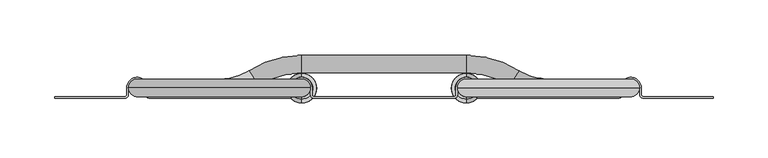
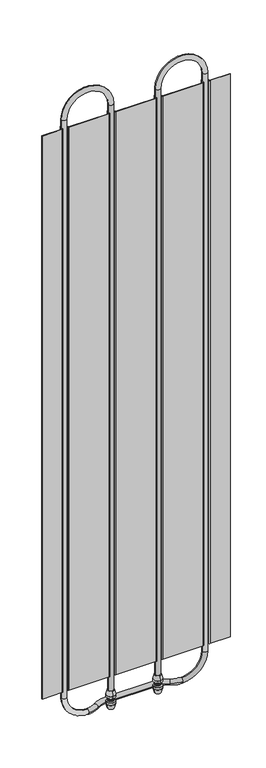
"""IFC4 building model written with IfcOpenShell, lengths in millimetres: plate geometry, 400_56_KOMF_NRG panel : Komfort NRG panel 600."""

from ifc_helpers import new_model, si_unit, point, frame, frame_2d, origin, place, context, project, spatial, polyline, circle_curve, ellipse_curve, trimmed, segment, composite_curve, outline, extrude, source, transform, mapped, element, save
from ifc_brep_helpers import plane_surface, cylinder_surface, revolved_surface, advanced_brep


def plate_3755ddb1(model_context):
    return source(origin(), model_context, "Body", "SolidModel", [
        advanced_brep(
        [(75.0, -2.0, 356.0), (75.0, 0.0, 356.0), (75.0, 16.0, 356.0), (75.0, 18.0, 356.0), (75.0, -5.5, 341.0), (75.0, 21.5, 341.0), (75.0, 0.0, 341.0), (75.0, 16.0, 341.0)],
        [
            (0, 1),
            (1, 2, circle_curve(frame((75.0, 8.0, 356.0), z_axis=(0.0, 0.0, -1.0), x_axis=(0.0, 1.0, 0.0)), 8.0)),
            (2, 3),
            (3, 0, circle_curve(frame((75.0, 8.0, 356.0), z_axis=(0.0, 0.0, 1.0), x_axis=(0.0, 1.0, 0.0)), 10.0)),
            (2, 1, circle_curve(frame((75.0, 8.0, 356.0), z_axis=(0.0, 0.0, -1.0), x_axis=(0.0, 1.0, 0.0)), 8.0)),
            (0, 3, circle_curve(frame((75.0, 8.0, 356.0), z_axis=(0.0, 0.0, 1.0), x_axis=(0.0, 1.0, 0.0)), 10.0)),
            (4, 0),
            (3, 5),
            (5, 4, circle_curve(frame((75.0, 8.0, 341.0), z_axis=(0.0, 0.0, 1.0), x_axis=(0.0, 1.0, 0.0)), 13.5)),
            (4, 5, circle_curve(frame((75.0, 8.0, 341.0), z_axis=(0.0, 0.0, 1.0), x_axis=(0.0, 1.0, 0.0)), 13.5)),
            (1, 6),
            (6, 7, circle_curve(frame((75.0, 8.0, 341.0), z_axis=(0.0, 0.0, -1.0), x_axis=(0.0, 1.0, 0.0)), 8.0)),
            (7, 2),
            (7, 6, circle_curve(frame((75.0, 8.0, 341.0), z_axis=(0.0, 0.0, -1.0), x_axis=(0.0, 1.0, 0.0)), 8.0)),
            (6, 4),
            (5, 7),
        ],
        [
            plane_surface(frame((75.0, 8.0, 356.0), z_axis=(0.0, 0.0, 1.0), x_axis=(0.0, 1.0, 0.0))),
            revolved_surface(polyline([(75.0, 18.0, 356.0), (75.0, 21.5, 341.0)]), (75.0, 8.0, 338.0), (0.0, 0.0, -1.0)),
            revolved_surface(polyline([(75.0, 16.0, 341.0), (75.0, 16.0, 356.0)]), (75.0, 8.0, 338.0), (0.0, 0.0, -1.0)),
            plane_surface(frame((75.0, 8.0, 341.0), z_axis=(0.0, 0.0, -1.0), x_axis=(0.0, 1.0, 0.0))),
        ],
        [
            (0, [[1, 2, 3, 4]]),
            (0, [[-3, 5, -1, 6]]),
            (1, [[7, -4, 8, 9]]),
            (1, [[-8, -6, -7, 10]]),
            (2, [[11, 12, 13, -2]]),
            (2, [[-13, 14, -11, -5]]),
            (3, [[15, -9, 16, -12]]),
            (3, [[-16, -10, -15, -14]]),
        ],
    ),
        advanced_brep(
        [(75.0, -5.5, 333.0), (75.0, -5.5, 341.0), (75.0, 21.5, 341.0), (75.0, 21.5, 333.0), (75.0, -2.0, 330.0), (75.0, 18.0, 330.0), (75.0, -2.0, 327.0), (75.0, 18.0, 327.0), (75.0, 8.0, 327.0), (75.0, 0.0, 341.0), (75.0, 0.0, 338.0), (75.0, 16.0, 338.0), (75.0, 16.0, 341.0), (75.0, 8.0, 338.0)],
        [
            (0, 1),
            (1, 2, circle_curve(frame((75.0, 8.0, 341.0), z_axis=(0.0, 0.0, -1.0), x_axis=(0.0, 1.0, 0.0)), 13.5)),
            (2, 3),
            (3, 0, circle_curve(frame((75.0, 8.0, 333.0), z_axis=(0.0, 0.0, 1.0), x_axis=(0.0, 1.0, 0.0)), 13.5)),
            (2, 1, circle_curve(frame((75.0, 8.0, 341.0), z_axis=(0.0, 0.0, -1.0), x_axis=(0.0, 1.0, 0.0)), 13.5)),
            (0, 3, circle_curve(frame((75.0, 8.0, 333.0), z_axis=(0.0, 0.0, 1.0), x_axis=(0.0, 1.0, 0.0)), 13.5)),
            (4, 0),
            (3, 5),
            (5, 4, circle_curve(frame((75.0, 8.0, 330.0), z_axis=(0.0, 0.0, 1.0), x_axis=(0.0, 1.0, 0.0)), 10.0)),
            (4, 5, circle_curve(frame((75.0, 8.0, 330.0), z_axis=(0.0, 0.0, 1.0), x_axis=(0.0, 1.0, 0.0)), 10.0)),
            (6, 4),
            (5, 7),
            (7, 6, circle_curve(frame((75.0, 8.0, 327.0), z_axis=(0.0, 0.0, 1.0), x_axis=(0.0, 1.0, 0.0)), 10.0)),
            (6, 7, circle_curve(frame((75.0, 8.0, 327.0), z_axis=(0.0, 0.0, 1.0), x_axis=(0.0, 1.0, 0.0)), 10.0)),
            (8, 6),
            (7, 8),
            (9, 10),
            (10, 11, circle_curve(frame((75.0, 8.0, 338.0), z_axis=(0.0, 0.0, -1.0), x_axis=(0.0, 1.0, 0.0)), 8.0)),
            (11, 12),
            (12, 9, circle_curve(frame((75.0, 8.0, 341.0), z_axis=(0.0, 0.0, 1.0), x_axis=(0.0, 1.0, 0.0)), 8.0)),
            (11, 10, circle_curve(frame((75.0, 8.0, 338.0), z_axis=(0.0, 0.0, -1.0), x_axis=(0.0, 1.0, 0.0)), 8.0)),
            (9, 12, circle_curve(frame((75.0, 8.0, 341.0), z_axis=(0.0, 0.0, 1.0), x_axis=(0.0, 1.0, 0.0)), 8.0)),
            (10, 13),
            (13, 11),
            (1, 9),
            (12, 2),
        ],
        [
            cylinder_surface(frame((75.0, 8.0, 338.0), z_axis=(0.0, 0.0, -1.0), x_axis=(0.0, 1.0, 0.0)), 13.5),
            revolved_surface(polyline([(75.0, 21.5, 333.0), (75.0, 18.0, 330.0)]), (75.0, 8.0, 338.0), (0.0, 0.0, -1.0)),
            cylinder_surface(frame((75.0, 8.0, 338.0), z_axis=(0.0, 0.0, -1.0), x_axis=(0.0, 1.0, 0.0)), 10.0),
            plane_surface(frame((75.0, 8.0, 327.0), z_axis=(0.0, 0.0, -1.0), x_axis=(0.0, 1.0, 0.0))),
            revolved_surface(polyline([(75.0, 16.0, 338.0), (75.0, 16.0, 341.0)]), (75.0, 8.0, 338.0), (0.0, 0.0, -1.0)),
            plane_surface(frame((75.0, 8.0, 338.0), z_axis=(0.0, 0.0, 1.0), x_axis=(0.0, 1.0, 0.0))),
            plane_surface(frame((75.0, 8.0, 341.0), z_axis=(0.0, 0.0, 1.0), x_axis=(0.0, 1.0, 0.0))),
        ],
        [
            (0, [[1, 2, 3, 4]]),
            (0, [[-3, 5, -1, 6]]),
            (1, [[7, -4, 8, 9]]),
            (1, [[-8, -6, -7, 10]]),
            (2, [[11, -9, 12, 13]]),
            (2, [[-12, -10, -11, 14]]),
            (3, [[15, -13, 16]]),
            (3, [[-16, -14, -15]]),
            (4, [[17, 18, 19, 20]]),
            (4, [[-19, 21, -17, 22]]),
            (5, [[23, 24, -18]]),
            (5, [[-24, -23, -21]]),
            (6, [[25, -20, 26, -2]]),
            (6, [[-26, -22, -25, -5]]),
        ],
    ),
        advanced_brep(
        [(65.0, 8.0, 295.6), (67.0, 8.0, 295.6), (83.0, 8.0, 295.6), (85.0, 8.0, 295.6), (61.5, 8.0, 310.6), (88.5, 8.0, 310.6), (67.0, 8.0, 310.6), (83.0, 8.0, 310.6)],
        [
            (0, 1),
            (1, 2, circle_curve(frame((75.0, 8.0, 295.6), z_axis=(0.0, 0.0, 1.0), x_axis=(1.0, 0.0, 0.0)), 8.0)),
            (2, 3),
            (3, 0, circle_curve(frame((75.0, 8.0, 295.6), z_axis=(0.0, 0.0, -1.0), x_axis=(1.0, 0.0, 0.0)), 10.0)),
            (2, 1, circle_curve(frame((75.0, 8.0, 295.6), z_axis=(0.0, 0.0, 1.0), x_axis=(1.0, 0.0, 0.0)), 8.0)),
            (0, 3, circle_curve(frame((75.0, 8.0, 295.6), z_axis=(0.0, 0.0, -1.0), x_axis=(1.0, 0.0, 0.0)), 10.0)),
            (4, 0),
            (3, 5),
            (5, 4, circle_curve(frame((75.0, 8.0, 310.6), z_axis=(0.0, 0.0, -1.0), x_axis=(1.0, 0.0, 0.0)), 13.5)),
            (4, 5, circle_curve(frame((75.0, 8.0, 310.6), z_axis=(0.0, 0.0, -1.0), x_axis=(1.0, 0.0, 0.0)), 13.5)),
            (1, 6),
            (6, 7, circle_curve(frame((75.0, 8.0, 310.6), z_axis=(0.0, 0.0, 1.0), x_axis=(1.0, 0.0, 0.0)), 8.0)),
            (7, 2),
            (7, 6, circle_curve(frame((75.0, 8.0, 310.6), z_axis=(0.0, 0.0, 1.0), x_axis=(1.0, 0.0, 0.0)), 8.0)),
            (6, 4),
            (5, 7),
        ],
        [
            plane_surface(frame((75.0, 8.0, 295.6), z_axis=(0.0, 0.0, -1.0), x_axis=(1.0, 0.0, 0.0))),
            revolved_surface(polyline([(85.0, 8.0, 295.6), (88.5, 8.0, 310.6)]), (75.0, 8.0, 313.6), (0.0, 0.0, 1.0)),
            revolved_surface(polyline([(83.0, 8.0, 310.6), (83.0, 8.0, 295.6)]), (75.0, 8.0, 313.6), (0.0, 0.0, 1.0)),
            plane_surface(frame((75.0, 8.0, 310.6), z_axis=(0.0, 0.0, 1.0), x_axis=(1.0, 0.0, 0.0))),
        ],
        [
            (0, [[1, 2, 3, 4]]),
            (0, [[-3, 5, -1, 6]]),
            (1, [[7, -4, 8, 9]]),
            (1, [[-8, -6, -7, 10]]),
            (2, [[11, 12, 13, -2]]),
            (2, [[-13, 14, -11, -5]]),
            (3, [[15, -9, 16, -12]]),
            (3, [[-16, -10, -15, -14]]),
        ],
    ),
        advanced_brep(
        [(61.5, 8.0, 318.6), (61.5, 8.0, 310.6), (88.5, 8.0, 310.6), (88.5, 8.0, 318.6), (65.0, 8.0, 321.6), (85.0, 8.0, 321.6), (65.0, 8.0, 324.6), (85.0, 8.0, 324.6), (75.0, 8.0, 324.6), (67.0, 8.0, 310.6), (67.0, 8.0, 313.6), (83.0, 8.0, 313.6), (83.0, 8.0, 310.6), (75.0, 8.0, 313.6)],
        [
            (0, 1),
            (1, 2, circle_curve(frame((75.0, 8.0, 310.6), z_axis=(0.0, 0.0, 1.0), x_axis=(1.0, 0.0, 0.0)), 13.5)),
            (2, 3),
            (3, 0, circle_curve(frame((75.0, 8.0, 318.6), z_axis=(0.0, 0.0, -1.0), x_axis=(1.0, 0.0, 0.0)), 13.5)),
            (2, 1, circle_curve(frame((75.0, 8.0, 310.6), z_axis=(0.0, 0.0, 1.0), x_axis=(1.0, 0.0, 0.0)), 13.5)),
            (0, 3, circle_curve(frame((75.0, 8.0, 318.6), z_axis=(0.0, 0.0, -1.0), x_axis=(1.0, 0.0, 0.0)), 13.5)),
            (4, 0),
            (3, 5),
            (5, 4, circle_curve(frame((75.0, 8.0, 321.6), z_axis=(0.0, 0.0, -1.0), x_axis=(1.0, 0.0, 0.0)), 10.0)),
            (4, 5, circle_curve(frame((75.0, 8.0, 321.6), z_axis=(0.0, 0.0, -1.0), x_axis=(1.0, 0.0, 0.0)), 10.0)),
            (6, 4),
            (5, 7),
            (7, 6, circle_curve(frame((75.0, 8.0, 324.6), z_axis=(0.0, 0.0, -1.0), x_axis=(1.0, 0.0, 0.0)), 10.0)),
            (6, 7, circle_curve(frame((75.0, 8.0, 324.6), z_axis=(0.0, 0.0, -1.0), x_axis=(1.0, 0.0, 0.0)), 10.0)),
            (8, 6),
            (7, 8),
            (9, 10),
            (10, 11, circle_curve(frame((75.0, 8.0, 313.6), z_axis=(0.0, 0.0, 1.0), x_axis=(1.0, 0.0, 0.0)), 8.0)),
            (11, 12),
            (12, 9, circle_curve(frame((75.0, 8.0, 310.6), z_axis=(0.0, 0.0, -1.0), x_axis=(1.0, 0.0, 0.0)), 8.0)),
            (11, 10, circle_curve(frame((75.0, 8.0, 313.6), z_axis=(0.0, 0.0, 1.0), x_axis=(1.0, 0.0, 0.0)), 8.0)),
            (9, 12, circle_curve(frame((75.0, 8.0, 310.6), z_axis=(0.0, 0.0, -1.0), x_axis=(1.0, 0.0, 0.0)), 8.0)),
            (10, 13),
            (13, 11),
            (1, 9),
            (12, 2),
        ],
        [
            cylinder_surface(frame((75.0, 8.0, 313.6), z_axis=(0.0, 0.0, 1.0), x_axis=(1.0, 0.0, 0.0)), 13.5),
            revolved_surface(polyline([(88.5, 8.0, 318.6), (85.0, 8.0, 321.6)]), (75.0, 8.0, 313.6), (0.0, 0.0, 1.0)),
            cylinder_surface(frame((75.0, 8.0, 313.6), z_axis=(0.0, 0.0, 1.0), x_axis=(1.0, 0.0, 0.0)), 10.0),
            plane_surface(frame((75.0, 8.0, 324.6), z_axis=(0.0, 0.0, 1.0), x_axis=(1.0, 0.0, 0.0))),
            revolved_surface(polyline([(83.0, 8.0, 313.6), (83.0, 8.0, 310.6)]), (75.0, 8.0, 313.6), (0.0, 0.0, 1.0)),
            plane_surface(frame((75.0, 8.0, 313.6), z_axis=(0.0, 0.0, -1.0), x_axis=(1.0, 0.0, 0.0))),
            plane_surface(frame((75.0, 8.0, 310.6), z_axis=(0.0, 0.0, -1.0), x_axis=(1.0, 0.0, 0.0))),
        ],
        [
            (0, [[1, 2, 3, 4]]),
            (0, [[-3, 5, -1, 6]]),
            (1, [[7, -4, 8, 9]]),
            (1, [[-8, -6, -7, 10]]),
            (2, [[11, -9, 12, 13]]),
            (2, [[-12, -10, -11, 14]]),
            (3, [[15, -13, 16]]),
            (3, [[-16, -14, -15]]),
            (4, [[17, 18, 19, 20]]),
            (4, [[-19, 21, -17, 22]]),
            (5, [[23, 24, -18]]),
            (5, [[-24, -23, -21]]),
            (6, [[25, -20, 26, -2]]),
            (6, [[-26, -22, -25, -5]]),
        ],
    ),
        extrude(outline(composite_curve([segment(trimmed(circle_curve(frame_2d((75.0, 8.0)), 10.5), [point((64.5, 8.0))], [point((75.0, 18.5))], False, "CARTESIAN"), True, "CONTINUOUS"), segment(trimmed(circle_curve(frame_2d((75.0, 8.0)), 10.5), [point((75.0, 18.5))], [point((85.5, 8.0))], False, "CARTESIAN"), True, "CONTINUOUS"), segment(trimmed(circle_curve(frame_2d((75.0, 8.0)), 10.5), [point((85.5, 8.0))], [point((75.0, -2.5))], False, "CARTESIAN"), True, "CONTINUOUS"), segment(trimmed(circle_curve(frame_2d((75.0, 8.0)), 10.5), [point((75.0, -2.5))], [point((64.5, 8.0))], False, "CARTESIAN"), True, "CONTINUOUS")], self_intersect=False)), frame((0.0, 0.0, 324.6), z_axis=(0.0, 0.0, 1.0), x_axis=(1.0, 0.0, 0.0)), (0.0, 0.0, 1.0), 2.4),
        extrude(outline(composite_curve([segment(trimmed(circle_curve(frame_2d((75.0, 8.0)), 6.0), [point((69.0, 8.0))], [point((75.0, 14.0))], False, "CARTESIAN"), True, "CONTINUOUS"), segment(trimmed(circle_curve(frame_2d((75.0, 8.0)), 6.0), [point((75.0, 14.0))], [point((81.0, 8.0))], False, "CARTESIAN"), True, "CONTINUOUS"), segment(trimmed(circle_curve(frame_2d((75.0, 8.0)), 6.0), [point((81.0, 8.0))], [point((75.0, 2.0))], False, "CARTESIAN"), True, "CONTINUOUS"), segment(trimmed(circle_curve(frame_2d((75.0, 8.0)), 6.0), [point((75.0, 2.0))], [point((69.0, 8.0))], False, "CARTESIAN"), True, "CONTINUOUS")], self_intersect=False)), frame((0.0, 0.0, 313.6), z_axis=(0.0, 0.0, 1.0), x_axis=(1.0, 0.0, 0.0)), (0.0, 0.0, 1.0), 24.4),
        advanced_brep(
        [(-75.0, -2.0, 356.0), (-75.0, 18.0, 356.0), (-75.0, 16.0, 356.0), (-75.0, 0.0, 356.0), (-75.0, -5.5, 341.0), (-75.0, 21.5, 341.0), (-75.0, 16.0, 341.0), (-75.0, 0.0, 341.0)],
        [
            (0, 1, circle_curve(frame((-75.0, 8.0, 356.0), z_axis=(0.0, 0.0, 1.0), x_axis=(0.0, 1.0, 0.0)), 10.0)),
            (1, 2),
            (2, 3, circle_curve(frame((-75.0, 8.0, 356.0), z_axis=(0.0, 0.0, -1.0), x_axis=(0.0, 1.0, 0.0)), 8.0)),
            (3, 0),
            (1, 0, circle_curve(frame((-75.0, 8.0, 356.0), z_axis=(0.0, 0.0, 1.0), x_axis=(0.0, 1.0, 0.0)), 10.0)),
            (3, 2, circle_curve(frame((-75.0, 8.0, 356.0), z_axis=(0.0, 0.0, -1.0), x_axis=(0.0, 1.0, 0.0)), 8.0)),
            (4, 5, circle_curve(frame((-75.0, 8.0, 341.0), z_axis=(0.0, 0.0, 1.0), x_axis=(0.0, 1.0, 0.0)), 13.5)),
            (5, 1),
            (0, 4),
            (5, 4, circle_curve(frame((-75.0, 8.0, 341.0), z_axis=(0.0, 0.0, 1.0), x_axis=(0.0, 1.0, 0.0)), 13.5)),
            (2, 6),
            (6, 7, circle_curve(frame((-75.0, 8.0, 341.0), z_axis=(0.0, 0.0, -1.0), x_axis=(0.0, 1.0, 0.0)), 8.0)),
            (7, 3),
            (7, 6, circle_curve(frame((-75.0, 8.0, 341.0), z_axis=(0.0, 0.0, -1.0), x_axis=(0.0, 1.0, 0.0)), 8.0)),
            (6, 5),
            (4, 7),
        ],
        [
            plane_surface(frame((-75.0, 8.0, 356.0), z_axis=(0.0, 0.0, 1.0), x_axis=(0.0, 1.0, 0.0))),
            revolved_surface(polyline([(-75.0, 18.0, 356.0), (-75.0, 21.5, 341.0)]), (-75.0, 8.0, 338.0), (0.0, 0.0, -1.0)),
            revolved_surface(polyline([(-75.0, 16.0, 341.0), (-75.0, 16.0, 356.0)]), (-75.0, 8.0, 338.0), (0.0, 0.0, -1.0)),
            plane_surface(frame((-75.0, 8.0, 341.0), z_axis=(0.0, 0.0, -1.0), x_axis=(0.0, 1.0, 0.0))),
        ],
        [
            (0, [[1, 2, 3, 4]]),
            (0, [[5, -4, 6, -2]]),
            (1, [[7, 8, -1, 9]]),
            (1, [[10, -9, -5, -8]]),
            (2, [[-3, 11, 12, 13]]),
            (2, [[-6, -13, 14, -11]]),
            (3, [[-12, 15, -7, 16]]),
            (3, [[-14, -16, -10, -15]]),
        ],
    ),
        advanced_brep(
        [(-75.0, -5.5, 333.0), (-75.0, 21.5, 333.0), (-75.0, 21.5, 341.0), (-75.0, -5.5, 341.0), (-75.0, -2.0, 330.0), (-75.0, 18.0, 330.0), (-75.0, -2.0, 327.0), (-75.0, 18.0, 327.0), (-75.0, 8.0, 327.0), (-75.0, 0.0, 341.0), (-75.0, 16.0, 341.0), (-75.0, 16.0, 338.0), (-75.0, 0.0, 338.0), (-75.0, 8.0, 338.0)],
        [
            (0, 1, circle_curve(frame((-75.0, 8.0, 333.0), z_axis=(0.0, 0.0, 1.0), x_axis=(0.0, 1.0, 0.0)), 13.5)),
            (1, 2),
            (2, 3, circle_curve(frame((-75.0, 8.0, 341.0), z_axis=(0.0, 0.0, -1.0), x_axis=(0.0, 1.0, 0.0)), 13.5)),
            (3, 0),
            (1, 0, circle_curve(frame((-75.0, 8.0, 333.0), z_axis=(0.0, 0.0, 1.0), x_axis=(0.0, 1.0, 0.0)), 13.5)),
            (3, 2, circle_curve(frame((-75.0, 8.0, 341.0), z_axis=(0.0, 0.0, -1.0), x_axis=(0.0, 1.0, 0.0)), 13.5)),
            (4, 5, circle_curve(frame((-75.0, 8.0, 330.0), z_axis=(0.0, 0.0, 1.0), x_axis=(0.0, 1.0, 0.0)), 10.0)),
            (5, 1),
            (0, 4),
            (5, 4, circle_curve(frame((-75.0, 8.0, 330.0), z_axis=(0.0, 0.0, 1.0), x_axis=(0.0, 1.0, 0.0)), 10.0)),
            (6, 7, circle_curve(frame((-75.0, 8.0, 327.0), z_axis=(0.0, 0.0, 1.0), x_axis=(0.0, 1.0, 0.0)), 10.0)),
            (7, 5),
            (4, 6),
            (7, 6, circle_curve(frame((-75.0, 8.0, 327.0), z_axis=(0.0, 0.0, 1.0), x_axis=(0.0, 1.0, 0.0)), 10.0)),
            (8, 7),
            (6, 8),
            (9, 10, circle_curve(frame((-75.0, 8.0, 341.0), z_axis=(0.0, 0.0, 1.0), x_axis=(0.0, 1.0, 0.0)), 8.0)),
            (10, 11),
            (11, 12, circle_curve(frame((-75.0, 8.0, 338.0), z_axis=(0.0, 0.0, -1.0), x_axis=(0.0, 1.0, 0.0)), 8.0)),
            (12, 9),
            (10, 9, circle_curve(frame((-75.0, 8.0, 341.0), z_axis=(0.0, 0.0, 1.0), x_axis=(0.0, 1.0, 0.0)), 8.0)),
            (12, 11, circle_curve(frame((-75.0, 8.0, 338.0), z_axis=(0.0, 0.0, -1.0), x_axis=(0.0, 1.0, 0.0)), 8.0)),
            (11, 13),
            (13, 12),
            (2, 10),
            (9, 3),
        ],
        [
            cylinder_surface(frame((-75.0, 8.0, 338.0), z_axis=(0.0, 0.0, -1.0), x_axis=(0.0, 1.0, 0.0)), 13.5),
            revolved_surface(polyline([(-75.0, 21.5, 333.0), (-75.0, 18.0, 330.0)]), (-75.0, 8.0, 338.0), (0.0, 0.0, -1.0)),
            cylinder_surface(frame((-75.0, 8.0, 338.0), z_axis=(0.0, 0.0, -1.0), x_axis=(0.0, 1.0, 0.0)), 10.0),
            plane_surface(frame((-75.0, 8.0, 327.0), z_axis=(0.0, 0.0, -1.0), x_axis=(0.0, 1.0, 0.0))),
            revolved_surface(polyline([(-75.0, 16.0, 338.0), (-75.0, 16.0, 341.0)]), (-75.0, 8.0, 338.0), (0.0, 0.0, -1.0)),
            plane_surface(frame((-75.0, 8.0, 338.0), z_axis=(0.0, 0.0, 1.0), x_axis=(0.0, 1.0, 0.0))),
            plane_surface(frame((-75.0, 8.0, 341.0), z_axis=(0.0, 0.0, 1.0), x_axis=(0.0, 1.0, 0.0))),
        ],
        [
            (0, [[1, 2, 3, 4]]),
            (0, [[5, -4, 6, -2]]),
            (1, [[7, 8, -1, 9]]),
            (1, [[10, -9, -5, -8]]),
            (2, [[11, 12, -7, 13]]),
            (2, [[14, -13, -10, -12]]),
            (3, [[15, -11, 16]]),
            (3, [[-16, -14, -15]]),
            (4, [[17, 18, 19, 20]]),
            (4, [[21, -20, 22, -18]]),
            (5, [[-19, 23, 24]]),
            (5, [[-22, -24, -23]]),
            (6, [[-3, 25, -17, 26]]),
            (6, [[-6, -26, -21, -25]]),
        ],
    ),
        advanced_brep(
        [(-65.0, 8.0, 295.6), (-85.0, 8.0, 295.6), (-83.0, 8.0, 295.6), (-67.0, 8.0, 295.6), (-61.5, 8.0, 310.6), (-88.5, 8.0, 310.6), (-83.0, 8.0, 310.6), (-67.0, 8.0, 310.6)],
        [
            (0, 1, circle_curve(frame((-75.0, 8.0, 295.6), z_axis=(0.0, 0.0, -1.0), x_axis=(-1.0, 0.0, 0.0)), 10.0)),
            (1, 2),
            (2, 3, circle_curve(frame((-75.0, 8.0, 295.6), z_axis=(0.0, 0.0, 1.0), x_axis=(-1.0, 0.0, 0.0)), 8.0)),
            (3, 0),
            (1, 0, circle_curve(frame((-75.0, 8.0, 295.6), z_axis=(0.0, 0.0, -1.0), x_axis=(-1.0, 0.0, 0.0)), 10.0)),
            (3, 2, circle_curve(frame((-75.0, 8.0, 295.6), z_axis=(0.0, 0.0, 1.0), x_axis=(-1.0, 0.0, 0.0)), 8.0)),
            (4, 5, circle_curve(frame((-75.0, 8.0, 310.6), z_axis=(0.0, 0.0, -1.0), x_axis=(-1.0, 0.0, 0.0)), 13.5)),
            (5, 1),
            (0, 4),
            (5, 4, circle_curve(frame((-75.0, 8.0, 310.6), z_axis=(0.0, 0.0, -1.0), x_axis=(-1.0, 0.0, 0.0)), 13.5)),
            (2, 6),
            (6, 7, circle_curve(frame((-75.0, 8.0, 310.6), z_axis=(0.0, 0.0, 1.0), x_axis=(-1.0, 0.0, 0.0)), 8.0)),
            (7, 3),
            (7, 6, circle_curve(frame((-75.0, 8.0, 310.6), z_axis=(0.0, 0.0, 1.0), x_axis=(-1.0, 0.0, 0.0)), 8.0)),
            (6, 5),
            (4, 7),
        ],
        [
            plane_surface(frame((-75.0, 8.0, 295.6), z_axis=(0.0, 0.0, -1.0), x_axis=(-1.0, 0.0, 0.0))),
            revolved_surface(polyline([(-85.0, 8.0, 295.6), (-88.5, 8.0, 310.6)]), (-75.0, 8.0, 313.6), (0.0, 0.0, 1.0)),
            revolved_surface(polyline([(-83.0, 8.0, 310.6), (-83.0, 8.0, 295.6)]), (-75.0, 8.0, 313.6), (0.0, 0.0, 1.0)),
            plane_surface(frame((-75.0, 8.0, 310.6), z_axis=(0.0, 0.0, 1.0), x_axis=(-1.0, 0.0, 0.0))),
        ],
        [
            (0, [[1, 2, 3, 4]]),
            (0, [[5, -4, 6, -2]]),
            (1, [[7, 8, -1, 9]]),
            (1, [[10, -9, -5, -8]]),
            (2, [[-3, 11, 12, 13]]),
            (2, [[-6, -13, 14, -11]]),
            (3, [[-12, 15, -7, 16]]),
            (3, [[-14, -16, -10, -15]]),
        ],
    ),
        advanced_brep(
        [(-61.5, 8.0, 318.6), (-88.5, 8.0, 318.6), (-88.5, 8.0, 310.6), (-61.5, 8.0, 310.6), (-65.0, 8.0, 321.6), (-85.0, 8.0, 321.6), (-65.0, 8.0, 324.6), (-85.0, 8.0, 324.6), (-75.0, 8.0, 324.6), (-67.0, 8.0, 310.6), (-83.0, 8.0, 310.6), (-83.0, 8.0, 313.6), (-67.0, 8.0, 313.6), (-75.0, 8.0, 313.6)],
        [
            (0, 1, circle_curve(frame((-75.0, 8.0, 318.6), z_axis=(0.0, 0.0, -1.0), x_axis=(-1.0, 0.0, 0.0)), 13.5)),
            (1, 2),
            (2, 3, circle_curve(frame((-75.0, 8.0, 310.6), z_axis=(0.0, 0.0, 1.0), x_axis=(-1.0, 0.0, 0.0)), 13.5)),
            (3, 0),
            (1, 0, circle_curve(frame((-75.0, 8.0, 318.6), z_axis=(0.0, 0.0, -1.0), x_axis=(-1.0, 0.0, 0.0)), 13.5)),
            (3, 2, circle_curve(frame((-75.0, 8.0, 310.6), z_axis=(0.0, 0.0, 1.0), x_axis=(-1.0, 0.0, 0.0)), 13.5)),
            (4, 5, circle_curve(frame((-75.0, 8.0, 321.6), z_axis=(0.0, 0.0, -1.0), x_axis=(-1.0, 0.0, 0.0)), 10.0)),
            (5, 1),
            (0, 4),
            (5, 4, circle_curve(frame((-75.0, 8.0, 321.6), z_axis=(0.0, 0.0, -1.0), x_axis=(-1.0, 0.0, 0.0)), 10.0)),
            (6, 7, circle_curve(frame((-75.0, 8.0, 324.6), z_axis=(0.0, 0.0, -1.0), x_axis=(-1.0, 0.0, 0.0)), 10.0)),
            (7, 5),
            (4, 6),
            (7, 6, circle_curve(frame((-75.0, 8.0, 324.6), z_axis=(0.0, 0.0, -1.0), x_axis=(-1.0, 0.0, 0.0)), 10.0)),
            (8, 7),
            (6, 8),
            (9, 10, circle_curve(frame((-75.0, 8.0, 310.6), z_axis=(0.0, 0.0, -1.0), x_axis=(-1.0, 0.0, 0.0)), 8.0)),
            (10, 11),
            (11, 12, circle_curve(frame((-75.0, 8.0, 313.6), z_axis=(0.0, 0.0, 1.0), x_axis=(-1.0, 0.0, 0.0)), 8.0)),
            (12, 9),
            (10, 9, circle_curve(frame((-75.0, 8.0, 310.6), z_axis=(0.0, 0.0, -1.0), x_axis=(-1.0, 0.0, 0.0)), 8.0)),
            (12, 11, circle_curve(frame((-75.0, 8.0, 313.6), z_axis=(0.0, 0.0, 1.0), x_axis=(-1.0, 0.0, 0.0)), 8.0)),
            (11, 13),
            (13, 12),
            (2, 10),
            (9, 3),
        ],
        [
            cylinder_surface(frame((-75.0, 8.0, 313.6), z_axis=(0.0, 0.0, 1.0), x_axis=(-1.0, 0.0, 0.0)), 13.5),
            revolved_surface(polyline([(-88.5, 8.0, 318.6), (-85.0, 8.0, 321.6)]), (-75.0, 8.0, 313.6), (0.0, 0.0, 1.0)),
            cylinder_surface(frame((-75.0, 8.0, 313.6), z_axis=(0.0, 0.0, 1.0), x_axis=(-1.0, 0.0, 0.0)), 10.0),
            plane_surface(frame((-75.0, 8.0, 324.6), z_axis=(0.0, 0.0, 1.0), x_axis=(-1.0, 0.0, 0.0))),
            revolved_surface(polyline([(-83.0, 8.0, 313.6), (-83.0, 8.0, 310.6)]), (-75.0, 8.0, 313.6), (0.0, 0.0, 1.0)),
            plane_surface(frame((-75.0, 8.0, 313.6), z_axis=(0.0, 0.0, -1.0), x_axis=(-1.0, 0.0, 0.0))),
            plane_surface(frame((-75.0, 8.0, 310.6), z_axis=(0.0, 0.0, -1.0), x_axis=(-1.0, 0.0, 0.0))),
        ],
        [
            (0, [[1, 2, 3, 4]]),
            (0, [[5, -4, 6, -2]]),
            (1, [[7, 8, -1, 9]]),
            (1, [[10, -9, -5, -8]]),
            (2, [[11, 12, -7, 13]]),
            (2, [[14, -13, -10, -12]]),
            (3, [[15, -11, 16]]),
            (3, [[-16, -14, -15]]),
            (4, [[17, 18, 19, 20]]),
            (4, [[21, -20, 22, -18]]),
            (5, [[-19, 23, 24]]),
            (5, [[-22, -24, -23]]),
            (6, [[-3, 25, -17, 26]]),
            (6, [[-6, -26, -21, -25]]),
        ],
    ),
        extrude(outline(composite_curve([segment(trimmed(circle_curve(frame_2d((-75.0, 8.0)), 10.5), [point((-64.5, 8.0))], [point((-75.0, -2.5))], False, "CARTESIAN"), True, "CONTINUOUS"), segment(trimmed(circle_curve(frame_2d((-75.0, 8.0)), 10.5), [point((-75.0, -2.5))], [point((-85.5, 8.0))], False, "CARTESIAN"), True, "CONTINUOUS"), segment(trimmed(circle_curve(frame_2d((-75.0, 8.0)), 10.5), [point((-85.5, 8.0))], [point((-75.0, 18.5))], False, "CARTESIAN"), True, "CONTINUOUS"), segment(trimmed(circle_curve(frame_2d((-75.0, 8.0)), 10.5), [point((-75.0, 18.5))], [point((-64.5, 8.0))], False, "CARTESIAN"), True, "CONTINUOUS")], self_intersect=False)), frame((0.0, 0.0, 324.6), z_axis=(0.0, 0.0, 1.0), x_axis=(1.0, 0.0, 0.0)), (0.0, 0.0, 1.0), 2.4),
        extrude(outline(composite_curve([segment(trimmed(circle_curve(frame_2d((-75.0, 8.0)), 6.0), [point((-69.0, 8.0))], [point((-75.0, 2.0))], False, "CARTESIAN"), True, "CONTINUOUS"), segment(trimmed(circle_curve(frame_2d((-75.0, 8.0)), 6.0), [point((-75.0, 2.0))], [point((-81.0, 8.0))], False, "CARTESIAN"), True, "CONTINUOUS"), segment(trimmed(circle_curve(frame_2d((-75.0, 8.0)), 6.0), [point((-81.0, 8.0))], [point((-75.0, 14.0))], False, "CARTESIAN"), True, "CONTINUOUS"), segment(trimmed(circle_curve(frame_2d((-75.0, 8.0)), 6.0), [point((-75.0, 14.0))], [point((-69.0, 8.0))], False, "CARTESIAN"), True, "CONTINUOUS")], self_intersect=False)), frame((0.0, 0.0, 313.6), z_axis=(0.0, 0.0, 1.0), x_axis=(1.0, 0.0, 0.0)), (0.0, 0.0, 1.0), 24.4),
        advanced_brep(
        [(-233.0, 8.0, 383.0), (-217.0, 8.0, 383.0), (-217.0, 8.0, 2333.0), (-233.0, 8.0, 2333.0), (-83.0, 8.0, 2333.0), (-67.0, 8.0, 2333.0), (-83.0, 8.0, 338.0), (-67.0, 8.0, 338.0), (-150.0, 8.0, 300.0), (-150.0, 0.0, 308.0), (-150.0, 8.0, 316.0), (-150.0, 16.0, 308.0), (-75.0, 38.0, 308.0), (-75.0, 22.0, 308.0), (75.0, 22.0, 308.0), (75.0, 38.0, 308.0), (-123.0211911, 23.913784, 308.0), (-114.3782053, 10.4490598, 308.0), (114.3782053, 10.4490598, 308.0), (123.0211911, 23.913784, 308.0), (150.0, 0.0, 308.0), (150.0, 8.0, 316.0), (150.0, 16.0, 308.0), (150.0, 8.0, 300.0), (233.0, 8.0, 383.0), (217.0, 8.0, 383.0), (217.0, 8.0, 2333.0), (233.0, 8.0, 2333.0), (83.0, 8.0, 2333.0), (67.0, 8.0, 2333.0), (83.0, 8.0, 338.0), (67.0, 8.0, 338.0)],
        [
            (0, 1, circle_curve(frame((-225.0, 8.0, 383.0), z_axis=(0.0, 0.0, 1.0), x_axis=(-1.0, 0.0, 0.0)), 8.0)),
            (1, 2),
            (2, 3, circle_curve(frame((-225.0, 8.0, 2333.0), z_axis=(0.0, 0.0, -1.0), x_axis=(-1.0, 0.0, 0.0)), 8.0)),
            (3, 0),
            (1, 0, circle_curve(frame((-225.0, 8.0, 383.0), z_axis=(0.0, 0.0, 1.0), x_axis=(-1.0, 0.0, 0.0)), 8.0)),
            (3, 2, circle_curve(frame((-225.0, 8.0, 2333.0), z_axis=(0.0, 0.0, -1.0), x_axis=(-1.0, 0.0, 0.0)), 8.0)),
            (2, 4, circle_curve(frame((-150.0, 8.0, 2333.0), z_axis=(0.0, 1.0, 0.0), x_axis=(-1.0, 0.0, 0.0)), 67.0)),
            (4, 5, circle_curve(frame((-75.0, 8.0, 2333.0), z_axis=(0.0, 0.0, 1.0), x_axis=(1.0, 0.0, 0.0)), 8.0)),
            (5, 3, circle_curve(frame((-150.0, 8.0, 2333.0), z_axis=(0.0, -1.0, 0.0), x_axis=(-1.0, 0.0, 0.0)), 83.0)),
            (5, 4, circle_curve(frame((-75.0, 8.0, 2333.0), z_axis=(0.0, 0.0, 1.0), x_axis=(1.0, 0.0, 0.0)), 8.0)),
            (4, 6),
            (6, 7, circle_curve(frame((-75.0, 8.0, 338.0), z_axis=(0.0, 0.0, 1.0), x_axis=(1.0, 0.0, 0.0)), 8.0)),
            (7, 5),
            (7, 6, circle_curve(frame((-75.0, 8.0, 338.0), z_axis=(0.0, 0.0, 1.0), x_axis=(1.0, 0.0, 0.0)), 8.0)),
            (0, 8, circle_curve(frame((-150.0, 8.0, 383.0), z_axis=(0.0, -1.0, 0.0), x_axis=(0.0, 0.0, -1.0)), 83.0)),
            (8, 9, circle_curve(frame((-150.0, 8.0, 308.0), z_axis=(-1.0, 0.0, 0.0), x_axis=(0.0, 0.0, -1.0)), 8.0)),
            (9, 10, circle_curve(frame((-150.0, 8.0, 308.0), z_axis=(-1.0, 0.0, 0.0), x_axis=(0.0, 0.0, -1.0)), 8.0)),
            (10, 1, circle_curve(frame((-150.0, 8.0, 383.0), z_axis=(0.0, 1.0, 0.0), x_axis=(0.0, 0.0, -1.0)), 67.0)),
            (10, 11, circle_curve(frame((-150.0, 8.0, 308.0), z_axis=(-1.0, 0.0, 0.0), x_axis=(0.0, 0.0, -1.0)), 8.0)),
            (11, 8, circle_curve(frame((-150.0, 8.0, 308.0), z_axis=(-1.0, 0.0, 0.0), x_axis=(0.0, 0.0, -1.0)), 8.0)),
            (12, 13, circle_curve(frame((-75.0, 30.0, 308.0), z_axis=(1.0, 0.0, 0.0), x_axis=(0.0, 1.0, 0.0)), 8.0)),
            (13, 14),
            (14, 15, circle_curve(frame((75.0, 30.0, 308.0), z_axis=(-1.0, 0.0, 0.0), x_axis=(0.0, 1.0, 0.0)), 8.0)),
            (15, 12),
            (13, 12, circle_curve(frame((-75.0, 30.0, 308.0), z_axis=(1.0, 0.0, 0.0), x_axis=(0.0, 1.0, 0.0)), 8.0)),
            (15, 14, circle_curve(frame((75.0, 30.0, 308.0), z_axis=(-1.0, 0.0, 0.0), x_axis=(0.0, 1.0, 0.0)), 8.0)),
            (16, 11, circle_curve(frame((-150.0, 65.9434981, 308.0), z_axis=(0.0, 0.0, -1.0), x_axis=(0.0, -1.0, 0.0)), 49.9434981)),
            (9, 17, circle_curve(frame((-150.0, 65.9434981, 308.0), z_axis=(0.0, 0.0, 1.0), x_axis=(0.0, -1.0, 0.0)), 65.9434981)),
            (17, 16, circle_curve(frame((-118.6996982, 17.1814219, 308.0), z_axis=(-0.8415452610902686, -0.5401866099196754, 0.0), x_axis=(-0.5401866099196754, 0.8415452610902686, 0.0)), 8.0)),
            (16, 17, circle_curve(frame((-118.6996982, 17.1814219, 308.0), z_axis=(-0.8415452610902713, -0.5401866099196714, 0.0), x_axis=(-0.5401866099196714, 0.8415452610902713, 0.0)), 8.0)),
            (12, 16, circle_curve(frame((-75.0, -50.897411, 308.0), z_axis=(0.0, 0.0, 1.0), x_axis=(-0.5401866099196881, 0.8415452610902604, 0.0)), 88.897411)),
            (17, 13, circle_curve(frame((-75.0, -50.897411, 308.0), z_axis=(0.0, 0.0, -1.0), x_axis=(-0.5401866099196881, 0.8415452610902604, 0.0)), 72.897411)),
            (14, 18, circle_curve(frame((75.0, -50.897411, 308.0), z_axis=(0.0, 0.0, -1.0), x_axis=(0.0, 1.0, 0.0)), 72.897411)),
            (18, 19, circle_curve(frame((118.6996982, 17.1814219, 308.0), z_axis=(-0.8415452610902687, 0.5401866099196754, 0.0), x_axis=(0.5401866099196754, 0.8415452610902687, 0.0)), 8.0)),
            (19, 15, circle_curve(frame((75.0, -50.897411, 308.0), z_axis=(0.0, 0.0, 1.0), x_axis=(0.0, 1.0, 0.0)), 88.897411)),
            (19, 18, circle_curve(frame((118.6996982, 17.1814219, 308.0), z_axis=(-0.8415452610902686, 0.5401866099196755, 0.0), x_axis=(0.5401866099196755, 0.8415452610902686, 0.0)), 8.0)),
            (18, 20, circle_curve(frame((150.0, 65.9434981, 308.0), z_axis=(0.0, 0.0, 1.0), x_axis=(-0.5401866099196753, -0.8415452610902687, 0.0)), 65.9434981)),
            (20, 21, circle_curve(frame((150.0, 8.0, 308.0), z_axis=(-1.0, 0.0, 0.0), x_axis=(0.0, 1.0, 0.0)), 8.0)),
            (21, 22, circle_curve(frame((150.0, 8.0, 308.0), z_axis=(-1.0, 1.1588507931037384e-12, 0.0), x_axis=(1.1588507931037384e-12, 1.0, 0.0)), 8.0)),
            (22, 19, circle_curve(frame((150.0, 65.9434981, 308.0), z_axis=(0.0, 0.0, -1.0), x_axis=(-0.5401866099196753, -0.8415452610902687, 0.0)), 49.9434981)),
            (22, 23, circle_curve(frame((150.0, 8.0, 308.0), z_axis=(-1.0, 0.0, 0.0), x_axis=(0.0, 1.0, 0.0)), 8.0)),
            (23, 20, circle_curve(frame((150.0, 8.0, 308.0), z_axis=(-1.0, 1.1534107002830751e-12, 0.0), x_axis=(1.1534107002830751e-12, 1.0, 0.0)), 8.0)),
            (24, 25, circle_curve(frame((225.0, 8.0, 383.0), z_axis=(0.0, 0.0, 1.0), x_axis=(-1.0, 0.0, 0.0)), 8.0)),
            (25, 26),
            (26, 27, circle_curve(frame((225.0, 8.0, 2333.0), z_axis=(0.0, 0.0, -1.0), x_axis=(-1.0, 0.0, 0.0)), 8.0)),
            (27, 24),
            (25, 24, circle_curve(frame((225.0, 8.0, 383.0), z_axis=(0.0, 0.0, 1.0), x_axis=(-1.0, 0.0, 0.0)), 8.0)),
            (27, 26, circle_curve(frame((225.0, 8.0, 2333.0), z_axis=(0.0, 0.0, -1.0), x_axis=(-1.0, 0.0, 0.0)), 8.0)),
            (26, 28, circle_curve(frame((150.0, 8.0, 2333.0), z_axis=(0.0, -1.0, 0.0), x_axis=(1.0, 0.0, 0.0)), 67.0)),
            (28, 29, circle_curve(frame((75.0, 8.0, 2333.0), z_axis=(0.0, 0.0, 1.0), x_axis=(1.0, 0.0, 0.0)), 8.0)),
            (29, 27, circle_curve(frame((150.0, 8.0, 2333.0), z_axis=(0.0, 1.0, 0.0), x_axis=(1.0, 0.0, 0.0)), 83.0)),
            (29, 28, circle_curve(frame((75.0, 8.0, 2333.0), z_axis=(0.0, 0.0, 1.0), x_axis=(1.0, 0.0, 0.0)), 8.0)),
            (28, 30),
            (30, 31, circle_curve(frame((75.0, 8.0, 338.0), z_axis=(0.0, 0.0, 1.0), x_axis=(1.0, 0.0, 0.0)), 8.0)),
            (31, 29),
            (31, 30, circle_curve(frame((75.0, 8.0, 338.0), z_axis=(0.0, 0.0, 1.0), x_axis=(1.0, 0.0, 0.0)), 8.0)),
            (24, 23, circle_curve(frame((150.0, 8.0, 383.0), z_axis=(0.0, 1.0, 0.0), x_axis=(0.0, 0.0, -1.0)), 83.0)),
            (21, 25, circle_curve(frame((150.0, 8.0, 383.0), z_axis=(0.0, -1.0, 0.0), x_axis=(0.0, 0.0, -1.0)), 67.0)),
        ],
        [
            cylinder_surface(frame((-225.0, 8.0, 383.0), z_axis=(0.0, 0.0, -1.0), x_axis=(-1.0, 0.0, 0.0)), 8.0),
            revolved_surface(trimmed(ellipse_curve(frame((-225.0, 8.0, 2333.0), z_axis=(0.0, 0.0, -1.0), x_axis=(-1.0, 0.0, 0.0)), 8.0, 8.0), [point((-217.0, 8.0, 2333.0))], [point((-233.0, 8.0, 2333.0))], True, "CARTESIAN"), (-150.0, 8.0, 2333.0), (0.0, 1.0, 0.0)),
            revolved_surface(trimmed(ellipse_curve(frame((-225.0, 8.0, 2333.0), z_axis=(0.0, 0.0, -1.0), x_axis=(-1.0, 0.0, 0.0)), 8.0, 8.0), [point((-233.0, 8.0, 2333.0))], [point((-217.0, 8.0, 2333.0))], True, "CARTESIAN"), (-150.0, 8.0, 2333.0), (0.0, 1.0, 0.0)),
            cylinder_surface(frame((-75.0, 8.0, 2333.0), z_axis=(0.0, 0.0, 1.0), x_axis=(1.0, 0.0, 0.0)), 8.0),
            plane_surface(frame((-75.0, 8.0, 338.0), z_axis=(0.0, 0.0, -1.0), x_axis=(0.0, -1.0, 0.0))),
            revolved_surface(trimmed(ellipse_curve(frame((-150.0, 8.0, 308.0), z_axis=(1.0, 0.0, 0.0), x_axis=(0.0, 0.0, -1.0)), 8.0, 8.0), [point((-150.0, 8.0, 316.0))], [point((-150.0, 8.0, 300.0))], True, "CARTESIAN"), (-150.0, 8.0, 383.0), (0.0, 1.0, 0.0)),
            revolved_surface(trimmed(ellipse_curve(frame((-150.0, 8.0, 308.0), z_axis=(1.0, 0.0, 0.0), x_axis=(0.0, 0.0, -1.0)), 8.0, 8.0), [point((-150.0, 8.0, 300.0))], [point((-150.0, 8.0, 316.0))], True, "CARTESIAN"), (-150.0, 8.0, 383.0), (0.0, 1.0, 0.0)),
            cylinder_surface(frame((-75.0, 30.0, 308.0), z_axis=(-1.0, 0.0, 0.0), x_axis=(0.0, 1.0, 0.0)), 8.0),
            revolved_surface(trimmed(ellipse_curve(frame((-150.0, 8.0, 308.0), z_axis=(-1.0, 0.0, 0.0), x_axis=(0.0, 1.0, 0.0)), 8.0, 8.0), [point((-150.0, 0.0, 308.0))], [point((-150.0, 16.0, 308.0))], True, "CARTESIAN"), (-150.0, 65.9434981, 308.0), (0.0, 0.0, 1.0)),
            revolved_surface(trimmed(ellipse_curve(frame((-150.0, 8.0, 308.0), z_axis=(-1.0, 0.0, 0.0), x_axis=(0.0, 1.0, 0.0)), 8.0, 8.0), [point((-150.0, 16.0, 308.0))], [point((-150.0, 0.0, 308.0))], True, "CARTESIAN"), (-150.0, 65.9434981, 308.0), (0.0, 0.0, 1.0)),
            revolved_surface(trimmed(ellipse_curve(frame((-118.6996982, 17.1814219, 308.0), z_axis=(-0.8415452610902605, -0.5401866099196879, 0.0), x_axis=(-0.5401866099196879, 0.8415452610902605, 0.0)), 8.0, 8.0), [point((-114.3782053, 10.4490598, 308.0))], [point((-123.0211911, 23.913784, 308.0))], True, "CARTESIAN"), (-75.0, -50.897411, 308.0), (0.0, 0.0, -1.0)),
            revolved_surface(trimmed(ellipse_curve(frame((-118.6996982, 17.1814219, 308.0), z_axis=(-0.8415452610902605, -0.5401866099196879, 0.0), x_axis=(-0.5401866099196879, 0.8415452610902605, 0.0)), 8.0, 8.0), [point((-123.0211911, 23.913784, 308.0))], [point((-114.3782053, 10.4490598, 308.0))], True, "CARTESIAN"), (-75.0, -50.897411, 308.0), (0.0, 0.0, -1.0)),
            revolved_surface(trimmed(ellipse_curve(frame((75.0, 30.0, 308.0), z_axis=(-1.0, 0.0, 0.0), x_axis=(0.0, 1.0, 0.0)), 8.0, 8.0), [point((75.0, 22.0, 308.0))], [point((75.0, 38.0, 308.0))], True, "CARTESIAN"), (75.0, -50.897411, 308.0), (0.0, 0.0, -1.0)),
            revolved_surface(trimmed(ellipse_curve(frame((75.0, 30.0, 308.0), z_axis=(-1.0, 0.0, 0.0), x_axis=(0.0, 1.0, 0.0)), 8.0, 8.0), [point((75.0, 38.0, 308.0))], [point((75.0, 22.0, 308.0))], True, "CARTESIAN"), (75.0, -50.897411, 308.0), (0.0, 0.0, -1.0)),
            revolved_surface(trimmed(ellipse_curve(frame((118.6996982, 17.1814219, 308.0), z_axis=(-0.8415452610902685, 0.5401866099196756, 0.0), x_axis=(0.5401866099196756, 0.8415452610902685, 0.0)), 8.0, 8.0), [point((114.3782053, 10.4490598, 308.0))], [point((123.0211911, 23.913784, 308.0))], True, "CARTESIAN"), (150.0, 65.9434981, 308.0), (0.0, 0.0, 1.0)),
            revolved_surface(trimmed(ellipse_curve(frame((118.6996982, 17.1814219, 308.0), z_axis=(-0.8415452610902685, 0.5401866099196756, 0.0), x_axis=(0.5401866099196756, 0.8415452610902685, 0.0)), 8.0, 8.0), [point((123.0211911, 23.913784, 308.0))], [point((114.3782053, 10.4490598, 308.0))], True, "CARTESIAN"), (150.0, 65.9434981, 308.0), (0.0, 0.0, 1.0)),
            cylinder_surface(frame((225.0, 8.0, 383.0), z_axis=(0.0, 0.0, -1.0), x_axis=(-1.0, 0.0, 0.0)), 8.0),
            revolved_surface(trimmed(ellipse_curve(frame((225.0, 8.0, 2333.0), z_axis=(0.0, 0.0, -1.0), x_axis=(-1.0, 0.0, 0.0)), 8.0, 8.0), [point((217.0, 8.0, 2333.0))], [point((233.0, 8.0, 2333.0))], True, "CARTESIAN"), (150.0, 8.0, 2333.0), (0.0, -1.0, 0.0)),
            revolved_surface(trimmed(ellipse_curve(frame((225.0, 8.0, 2333.0), z_axis=(0.0, 0.0, -1.0), x_axis=(-1.0, 0.0, 0.0)), 8.0, 8.0), [point((233.0, 8.0, 2333.0))], [point((217.0, 8.0, 2333.0))], True, "CARTESIAN"), (150.0, 8.0, 2333.0), (0.0, -1.0, 0.0)),
            cylinder_surface(frame((75.0, 8.0, 2333.0), z_axis=(0.0, 0.0, 1.0), x_axis=(1.0, 0.0, 0.0)), 8.0),
            plane_surface(frame((75.0, 8.0, 338.0), z_axis=(0.0, 0.0, -1.0), x_axis=(0.0, -1.0, 0.0))),
            revolved_surface(trimmed(ellipse_curve(frame((150.0, 8.0, 308.0), z_axis=(-1.0, 0.0, 0.0), x_axis=(0.0, 0.0, 1.0)), 8.0, 8.0), [point((150.0, 8.0, 316.0))], [point((150.0, 8.0, 300.0))], True, "CARTESIAN"), (150.0, 8.0, 383.0), (0.0, -1.0, 0.0)),
            revolved_surface(trimmed(ellipse_curve(frame((150.0, 8.0, 308.0), z_axis=(-1.0, 0.0, 0.0), x_axis=(0.0, 0.0, 1.0)), 8.0, 8.0), [point((150.0, 8.0, 300.0))], [point((150.0, 8.0, 316.0))], True, "CARTESIAN"), (150.0, 8.0, 383.0), (0.0, -1.0, 0.0)),
        ],
        [
            (0, [[1, 2, 3, 4]]),
            (0, [[-2, 5, -4, 6]]),
            (1, [[-3, 7, 8, 9]]),
            (2, [[-6, -9, 10, -7]]),
            (3, [[-8, 11, 12, 13]]),
            (3, [[-10, -13, 14, -11]]),
            (4, [[-12, -14]]),
            (5, [[-1, 15, 16, 17, 18]]),
            (6, [[-5, -18, 19, 20, -15]]),
            (7, [[21, 22, 23, 24]]),
            (7, [[-22, 25, -24, 26]]),
            (8, [[27, -19, -17, 28, 29]]),
            (9, [[-27, 30, -28, -16, -20]]),
            (10, [[-21, 31, -29, 32]]),
            (11, [[-25, -32, -30, -31]]),
            (12, [[-23, 33, 34, 35]]),
            (13, [[-26, -35, 36, -33]]),
            (14, [[-34, 37, 38, 39, 40]]),
            (15, [[-36, -40, 41, 42, -37]]),
            (16, [[43, 44, 45, 46]]),
            (16, [[-44, 47, -46, 48]]),
            (17, [[-45, 49, 50, 51]]),
            (18, [[-48, -51, 52, -49]]),
            (19, [[-50, 53, 54, 55]]),
            (19, [[-52, -55, 56, -53]]),
            (20, [[-54, -56]]),
            (21, [[-43, 57, -41, -39, 58]]),
            (22, [[-47, -58, -38, -42, -57]]),
        ],
    ),
        extrude(outline(composite_curve([segment(polyline([(-236.0, -1.5), (-300.0, -1.5), (-300.0, 0.0), (-236.0, 0.0)]), True, "CONTINUOUS"), segment(trimmed(circle_curve(frame_2d((-236.0, 1.5)), 1.5), [point((-236.0, 0.0))], [point((-234.5, 1.5))], True, "CARTESIAN"), True, "CONTINUOUS"), segment(polyline([(-234.5, 1.5), (-234.5, 8.0)]), True, "CONTINUOUS"), segment(trimmed(circle_curve(frame_2d((-225.0, 8.0)), 9.5), [point((-234.5, 8.0))], [point((-215.5, 8.0))], False, "CARTESIAN"), True, "CONTINUOUS"), segment(polyline([(-215.5, 8.0), (-215.5, 1.5)]), True, "CONTINUOUS"), segment(trimmed(circle_curve(frame_2d((-214.0, 1.5)), 1.5), [point((-215.5, 1.5))], [point((-214.0, 0.0))], True, "CARTESIAN"), True, "CONTINUOUS"), segment(polyline([(-214.0, 0.0), (-86.0, 0.0)]), True, "CONTINUOUS"), segment(trimmed(circle_curve(frame_2d((-86.0, 1.5)), 1.5), [point((-86.0, 0.0))], [point((-84.5, 1.5))], True, "CARTESIAN"), True, "CONTINUOUS"), segment(polyline([(-84.5, 1.5), (-84.5, 8.0)]), True, "CONTINUOUS"), segment(trimmed(circle_curve(frame_2d((-75.0, 8.0)), 9.5), [point((-84.5, 8.0))], [point((-65.5, 8.0))], False, "CARTESIAN"), True, "CONTINUOUS"), segment(polyline([(-65.5, 8.0), (-65.5, 1.5)]), True, "CONTINUOUS"), segment(trimmed(circle_curve(frame_2d((-64.0, 1.5)), 1.5), [point((-65.5, 1.5))], [point((-64.0, 0.0))], True, "CARTESIAN"), True, "CONTINUOUS"), segment(polyline([(-64.0, 0.0), (64.0, 0.0)]), True, "CONTINUOUS"), segment(trimmed(circle_curve(frame_2d((64.0, 1.5)), 1.5), [point((64.0, 0.0))], [point((65.5, 1.5))], True, "CARTESIAN"), True, "CONTINUOUS"), segment(polyline([(65.5, 1.5), (65.5, 8.0)]), True, "CONTINUOUS"), segment(trimmed(circle_curve(frame_2d((75.0, 8.0)), 9.5), [point((65.5, 8.0))], [point((84.5, 8.0))], False, "CARTESIAN"), True, "CONTINUOUS"), segment(polyline([(84.5, 8.0), (84.5, 1.5)]), True, "CONTINUOUS"), segment(trimmed(circle_curve(frame_2d((86.0, 1.5)), 1.5), [point((84.5, 1.5))], [point((86.0, 0.0))], True, "CARTESIAN"), True, "CONTINUOUS"), segment(polyline([(86.0, 0.0), (214.0, 0.0)]), True, "CONTINUOUS"), segment(trimmed(circle_curve(frame_2d((214.0, 1.5)), 1.5), [point((214.0, 0.0))], [point((215.5, 1.5))], True, "CARTESIAN"), True, "CONTINUOUS"), segment(polyline([(215.5, 1.5), (215.5, 8.0)]), True, "CONTINUOUS"), segment(trimmed(circle_curve(frame_2d((225.0, 8.0)), 9.5), [point((215.5, 8.0))], [point((234.5, 8.0))], False, "CARTESIAN"), True, "CONTINUOUS"), segment(polyline([(234.5, 8.0), (234.5, 2.0)]), True, "CONTINUOUS"), segment(trimmed(circle_curve(frame_2d((236.5, 2.0)), 2.0), [point((234.5, 2.0))], [point((236.5, 0.0))], True, "CARTESIAN"), True, "CONTINUOUS"), segment(polyline([(236.5, 0.0), (300.0, 0.0), (300.0, -1.5), (236.5, -1.5)]), True, "CONTINUOUS"), segment(trimmed(circle_curve(frame_2d((236.5, 2.0)), 3.5), [point((236.5, -1.5))], [point((233.0, 2.0))], False, "CARTESIAN"), True, "CONTINUOUS"), segment(polyline([(233.0, 2.0), (233.0, 8.0)]), True, "CONTINUOUS"), segment(trimmed(circle_curve(frame_2d((225.0, 8.0)), 8.0), [point((233.0, 8.0))], [point((217.0, 8.0))], True, "CARTESIAN"), True, "CONTINUOUS"), segment(polyline([(217.0, 8.0), (217.0, 1.5)]), True, "CONTINUOUS"), segment(trimmed(circle_curve(frame_2d((214.0, 1.5)), 3.0), [point((217.0, 1.5))], [point((214.0, -1.5))], False, "CARTESIAN"), True, "CONTINUOUS"), segment(polyline([(214.0, -1.5), (86.0, -1.5)]), True, "CONTINUOUS"), segment(trimmed(circle_curve(frame_2d((86.0, 1.5)), 3.0), [point((86.0, -1.5))], [point((83.0, 1.5))], False, "CARTESIAN"), True, "CONTINUOUS"), segment(polyline([(83.0, 1.5), (83.0, 8.0)]), True, "CONTINUOUS"), segment(trimmed(circle_curve(frame_2d((75.0, 8.0)), 8.0), [point((83.0, 8.0))], [point((67.0, 8.0))], True, "CARTESIAN"), True, "CONTINUOUS"), segment(polyline([(67.0, 8.0), (67.0, 1.5)]), True, "CONTINUOUS"), segment(trimmed(circle_curve(frame_2d((64.0, 1.5)), 3.0), [point((67.0, 1.5))], [point((64.0, -1.5))], False, "CARTESIAN"), True, "CONTINUOUS"), segment(polyline([(64.0, -1.5), (-64.0, -1.5)]), True, "CONTINUOUS"), segment(trimmed(circle_curve(frame_2d((-64.0, 1.5)), 3.0), [point((-64.0, -1.5))], [point((-67.0, 1.5))], False, "CARTESIAN"), True, "CONTINUOUS"), segment(polyline([(-67.0, 1.5), (-67.0, 8.0)]), True, "CONTINUOUS"), segment(trimmed(circle_curve(frame_2d((-75.0, 8.0)), 8.0), [point((-67.0, 8.0))], [point((-83.0, 8.0))], True, "CARTESIAN"), True, "CONTINUOUS"), segment(polyline([(-83.0, 8.0), (-83.0, 1.5)]), True, "CONTINUOUS"), segment(trimmed(circle_curve(frame_2d((-86.0, 1.5)), 3.0), [point((-83.0, 1.5))], [point((-86.0, -1.5))], False, "CARTESIAN"), True, "CONTINUOUS"), segment(polyline([(-86.0, -1.5), (-214.0, -1.5)]), True, "CONTINUOUS"), segment(trimmed(circle_curve(frame_2d((-214.0, 1.5)), 3.0), [point((-214.0, -1.5))], [point((-217.0, 1.5))], False, "CARTESIAN"), True, "CONTINUOUS"), segment(polyline([(-217.0, 1.5), (-217.0, 8.0)]), True, "CONTINUOUS"), segment(trimmed(circle_curve(frame_2d((-225.0, 8.0)), 8.0), [point((-217.0, 8.0))], [point((-233.0, 8.0))], True, "CARTESIAN"), True, "CONTINUOUS"), segment(polyline([(-233.0, 8.0), (-233.0, 1.5)]), True, "CONTINUOUS"), segment(trimmed(circle_curve(frame_2d((-236.0, 1.5)), 3.0), [point((-233.0, 1.5))], [point((-236.0, -1.5))], False, "CARTESIAN"), True, "CONTINUOUS")], self_intersect=False)), frame((0.0, 0.0, 408.0), z_axis=(0.0, 0.0, 1.0), x_axis=(1.0, 0.0, 0.0)), (0.0, 0.0, 1.0), 1900.0),
    ])


if __name__ == "__main__":
    model = new_model("IFC4")
    model_context = context("Model", 3, world=origin())
    ifc_project = project(units=[si_unit("LENGTHUNIT", "METRE", prefix="MILLI")], contexts=[model_context])
    site = spatial("IfcSite", under=ifc_project)
    building = spatial("IfcBuilding", under=site)
    placement = place(None, origin())
    plate_shape = plate_3755ddb1(model_context)
    element("IfcPlate", 1, ObjectType="400_56_KOMF_NRG panel : Komfort NRG panel 600", at=placement, inside=building, context=model_context, shape_type="MappedRepresentation", body=[
        mapped(plate_shape, transform((0.0, 0.0, 0.0), x_axis=(1.0, 0.0, 0.0), y_axis=(0.0, 1.0, 0.0), z_axis=(0.0, 0.0, 1.0))),
    ])
    save(model, "model.ifc")
